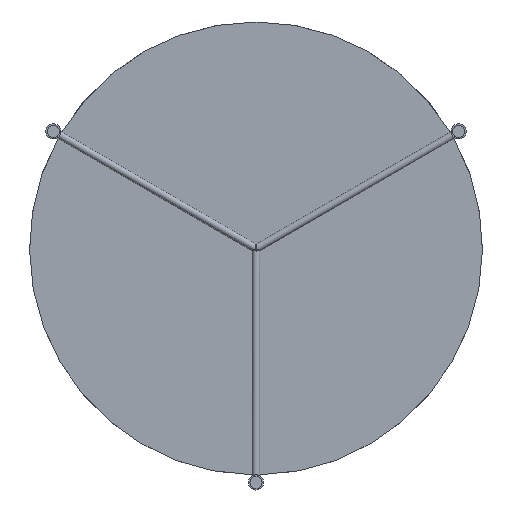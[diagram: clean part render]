
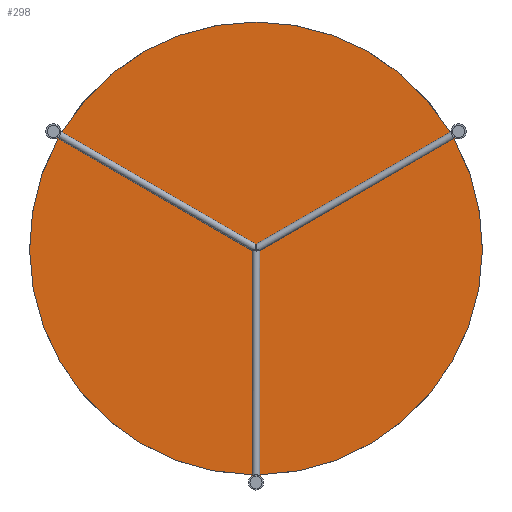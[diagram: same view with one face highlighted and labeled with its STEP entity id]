
A CAD part, front view. The second image highlights one B-rep face of the part: STEP entity #298.
In plain terms, the highlighted planar face has unit normal (0, -1, 0).
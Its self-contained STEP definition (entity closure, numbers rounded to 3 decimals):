
#1 = DIRECTION ( 'NONE',  ( -0.866, 0., 0.5 ) ) ;
#32 = DIRECTION ( 'NONE',  ( 0., -1., 0. ) ) ;
#84 = VECTOR ( 'NONE', #3599, 1000. ) ;
#110 = EDGE_LOOP ( 'NONE', ( #4529, #2654, #4414, #3658, #4558, #2702, #159, #4268, #3828, #2285, #1982, #3077, #2150 ) ) ;
#127 = CARTESIAN_POINT ( 'NONE',  ( 262.756, 251., 144.774 ) ) ;
#159 = ORIENTED_EDGE ( 'NONE', *, *, #2532, .T. ) ;
#204 = EDGE_CURVE ( 'NONE', #2119, #4289, #3344, .T. ) ;
#298 = ADVANCED_FACE ( 'NONE', ( #3007 ), #3672, .T. ) ;
#368 = DIRECTION ( 'NONE',  ( 0.866, 0., 0.5 ) ) ;
#432 = CARTESIAN_POINT ( 'NONE',  ( -262.756, 251., 144.774 ) ) ;
#462 = AXIS2_PLACEMENT_3D ( 'NONE', #4267, #3888, #2873 ) ;
#475 = CIRCLE ( 'NONE', #4021, 10. ) ;
#505 = DIRECTION ( 'NONE',  ( 0., -1., 0. ) ) ;
#563 = VERTEX_POINT ( 'NONE', #2927 ) ;
#598 = EDGE_CURVE ( 'NONE', #4289, #3542, #2568, .T. ) ;
#632 = CIRCLE ( 'NONE', #4376, 10. ) ;
#657 = CARTESIAN_POINT ( 'NONE',  ( -268.528, 251., 155.035 ) ) ;
#704 = VERTEX_POINT ( 'NONE', #3450 ) ;
#754 = DIRECTION ( 'NONE',  ( 0., -1., 0. ) ) ;
#766 = DIRECTION ( 'NONE',  ( 0.866, 0., -0.5 ) ) ;
#811 = VERTEX_POINT ( 'NONE', #2882 ) ;
#847 = CARTESIAN_POINT ( 'NONE',  ( 0., 251., 300. ) ) ;
#890 = CARTESIAN_POINT ( 'NONE',  ( 0., 251., 0. ) ) ;
#937 = CARTESIAN_POINT ( 'NONE',  ( 6., 251., -302.07 ) ) ;
#988 = EDGE_CURVE ( 'NONE', #704, #2860, #1333, .T. ) ;
#1029 = CARTESIAN_POINT ( 'NONE',  ( 6., 251., -299.94 ) ) ;
#1104 = EDGE_CURVE ( 'NONE', #4554, #563, #3427, .T. ) ;
#1262 = CARTESIAN_POINT ( 'NONE',  ( 0., 251., 0. ) ) ;
#1289 = VECTOR ( 'NONE', #766, 1000. ) ;
#1316 = DIRECTION ( 'NONE',  ( 0., 0., -1. ) ) ;
#1333 = LINE ( 'NONE', #3148, #2517 ) ;
#1364 = DIRECTION ( 'NONE',  ( 0., 0., -1. ) ) ;
#1446 = EDGE_CURVE ( 'NONE', #3542, #3879, #3198, .T. ) ;
#1450 = CARTESIAN_POINT ( 'NONE',  ( -6., 251., -310.07 ) ) ;
#1454 = CARTESIAN_POINT ( 'NONE',  ( 0., 251., 0. ) ) ;
#1458 = CARTESIAN_POINT ( 'NONE',  ( -264.6, 251., 145.839 ) ) ;
#1543 = DIRECTION ( 'NONE',  ( 0., 0., -1. ) ) ;
#1561 = CARTESIAN_POINT ( 'NONE',  ( 256.756, 251., 155.166 ) ) ;
#1662 = CARTESIAN_POINT ( 'NONE',  ( 268.528, 251., 155.035 ) ) ;
#1755 = VERTEX_POINT ( 'NONE', #1561 ) ;
#1855 = AXIS2_PLACEMENT_3D ( 'NONE', #2196, #32, #2149 ) ;
#1879 = VERTEX_POINT ( 'NONE', #847 ) ;
#1902 = DIRECTION ( 'NONE',  ( 0., 0., -1. ) ) ;
#1980 = EDGE_CURVE ( 'NONE', #1755, #1879, #3431, .T. ) ;
#1982 = ORIENTED_EDGE ( 'NONE', *, *, #3157, .T. ) ;
#2031 = DIRECTION ( 'NONE',  ( 0., 1., 0. ) ) ;
#2032 = EDGE_CURVE ( 'NONE', #1879, #704, #3056, .T. ) ;
#2087 = DIRECTION ( 'NONE',  ( 0., 0., -1. ) ) ;
#2119 = VERTEX_POINT ( 'NONE', #432 ) ;
#2149 = DIRECTION ( 'NONE',  ( 0., 0., -1. ) ) ;
#2150 = ORIENTED_EDGE ( 'NONE', *, *, #2032, .T. ) ;
#2196 = CARTESIAN_POINT ( 'NONE',  ( 0., 251., 0. ) ) ;
#2285 = ORIENTED_EDGE ( 'NONE', *, *, #3437, .T. ) ;
#2402 = CARTESIAN_POINT ( 'NONE',  ( 6., 251., -299.94 ) ) ;
#2413 = EDGE_CURVE ( 'NONE', #4333, #4554, #2895, .T. ) ;
#2509 = DIRECTION ( 'NONE',  ( 0., 0., -1. ) ) ;
#2517 = VECTOR ( 'NONE', #1, 1000. ) ;
#2532 = EDGE_CURVE ( 'NONE', #3879, #4333, #2756, .T. ) ;
#2568 = LINE ( 'NONE', #1450, #84 ) ;
#2593 = DIRECTION ( 'NONE',  ( 0., -1., 0. ) ) ;
#2654 = ORIENTED_EDGE ( 'NONE', *, *, #3769, .T. ) ;
#2656 = CARTESIAN_POINT ( 'NONE',  ( 0., 251., 0. ) ) ;
#2678 = VECTOR ( 'NONE', #4151, 1000. ) ;
#2702 = ORIENTED_EDGE ( 'NONE', *, *, #1446, .T. ) ;
#2755 = DIRECTION ( 'NONE',  ( -0.866, 0., -0.5 ) ) ;
#2756 = LINE ( 'NONE', #1029, #2678 ) ;
#2860 = VERTEX_POINT ( 'NONE', #3905 ) ;
#2873 = DIRECTION ( 'NONE',  ( 0., 0., -1. ) ) ;
#2875 = CARTESIAN_POINT ( 'NONE',  ( 271.528, 251., 149.839 ) ) ;
#2882 = CARTESIAN_POINT ( 'NONE',  ( 258.6, 251., 156.231 ) ) ;
#2895 = CIRCLE ( 'NONE', #4082, 300. ) ;
#2927 = CARTESIAN_POINT ( 'NONE',  ( 264.6, 251., 145.839 ) ) ;
#3007 = FACE_OUTER_BOUND ( 'NONE', #110, .T. ) ;
#3049 = VECTOR ( 'NONE', #368, 1000. ) ;
#3056 = CIRCLE ( 'NONE', #4228, 300. ) ;
#3077 = ORIENTED_EDGE ( 'NONE', *, *, #1980, .T. ) ;
#3110 = LINE ( 'NONE', #4514, #3641 ) ;
#3148 = CARTESIAN_POINT ( 'NONE',  ( -265.528, 251., 160.231 ) ) ;
#3157 = EDGE_CURVE ( 'NONE', #811, #1755, #3110, .T. ) ;
#3198 = CIRCLE ( 'NONE', #462, 10. ) ;
#3205 = VERTEX_POINT ( 'NONE', #1458 ) ;
#3344 = CIRCLE ( 'NONE', #1855, 300. ) ;
#3416 = DIRECTION ( 'NONE',  ( 0., -1., 0. ) ) ;
#3427 = LINE ( 'NONE', #2875, #3049 ) ;
#3431 = CIRCLE ( 'NONE', #3873, 300. ) ;
#3437 = EDGE_CURVE ( 'NONE', #563, #811, #632, .T. ) ;
#3450 = CARTESIAN_POINT ( 'NONE',  ( -256.756, 251., 155.166 ) ) ;
#3542 = VERTEX_POINT ( 'NONE', #3964 ) ;
#3591 = LINE ( 'NONE', #3946, #1289 ) ;
#3599 = DIRECTION ( 'NONE',  ( 0., 0., -1. ) ) ;
#3641 = VECTOR ( 'NONE', #2755, 1000. ) ;
#3658 = ORIENTED_EDGE ( 'NONE', *, *, #204, .T. ) ;
#3672 = PLANE ( 'NONE',  #3801 ) ;
#3769 = EDGE_CURVE ( 'NONE', #2860, #3205, #475, .T. ) ;
#3801 = AXIS2_PLACEMENT_3D ( 'NONE', #1262, #505, #1902 ) ;
#3828 = ORIENTED_EDGE ( 'NONE', *, *, #1104, .T. ) ;
#3873 = AXIS2_PLACEMENT_3D ( 'NONE', #1454, #754, #2509 ) ;
#3879 = VERTEX_POINT ( 'NONE', #937 ) ;
#3888 = DIRECTION ( 'NONE',  ( 0., 1., 0. ) ) ;
#3905 = CARTESIAN_POINT ( 'NONE',  ( -258.6, 251., 156.231 ) ) ;
#3946 = CARTESIAN_POINT ( 'NONE',  ( -262.756, 251., 144.774 ) ) ;
#3964 = CARTESIAN_POINT ( 'NONE',  ( -6., 251., -302.07 ) ) ;
#4021 = AXIS2_PLACEMENT_3D ( 'NONE', #657, #4121, #1316 ) ;
#4082 = AXIS2_PLACEMENT_3D ( 'NONE', #2656, #3416, #1543 ) ;
#4121 = DIRECTION ( 'NONE',  ( 0., 1., 0. ) ) ;
#4151 = DIRECTION ( 'NONE',  ( 0., 0., 1. ) ) ;
#4156 = EDGE_CURVE ( 'NONE', #3205, #2119, #3591, .T. ) ;
#4210 = CARTESIAN_POINT ( 'NONE',  ( -6., 251., -299.94 ) ) ;
#4228 = AXIS2_PLACEMENT_3D ( 'NONE', #890, #2593, #2087 ) ;
#4267 = CARTESIAN_POINT ( 'NONE',  ( 0., 251., -310.07 ) ) ;
#4268 = ORIENTED_EDGE ( 'NONE', *, *, #2413, .T. ) ;
#4289 = VERTEX_POINT ( 'NONE', #4210 ) ;
#4333 = VERTEX_POINT ( 'NONE', #2402 ) ;
#4376 = AXIS2_PLACEMENT_3D ( 'NONE', #1662, #2031, #1364 ) ;
#4414 = ORIENTED_EDGE ( 'NONE', *, *, #4156, .T. ) ;
#4514 = CARTESIAN_POINT ( 'NONE',  ( 256.756, 251., 155.166 ) ) ;
#4529 = ORIENTED_EDGE ( 'NONE', *, *, #988, .T. ) ;
#4554 = VERTEX_POINT ( 'NONE', #127 ) ;
#4558 = ORIENTED_EDGE ( 'NONE', *, *, #598, .T. ) ;
